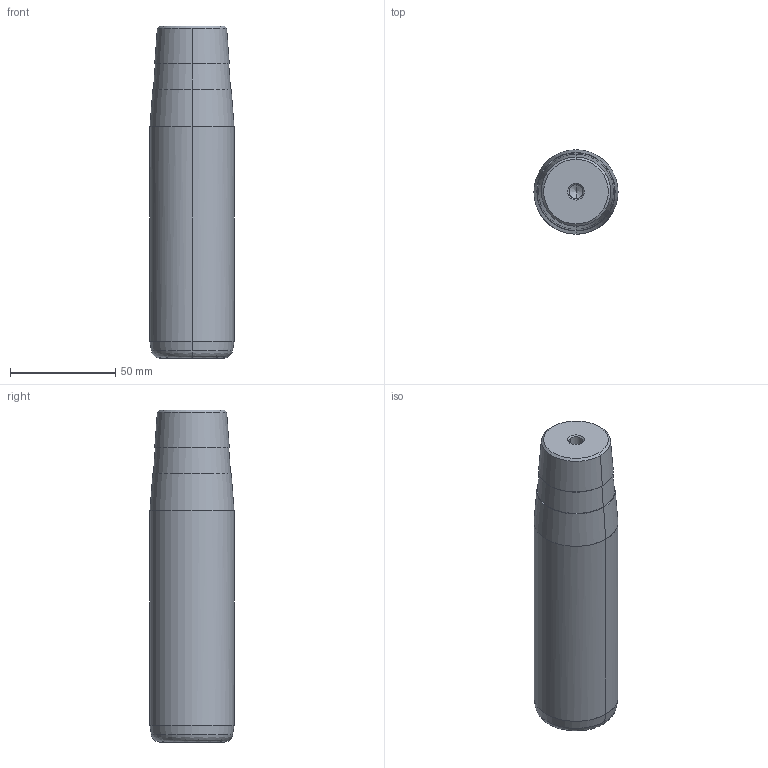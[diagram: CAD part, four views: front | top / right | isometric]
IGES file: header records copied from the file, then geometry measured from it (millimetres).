
Start section: START RECORD GO HERE.
Global section: file name: 722-40x125x158.igs; native system: DASSAULT SYSTEMES CATIA V5 R20 - www.3ds.com; preprocessor: CATIA Version 5 Release 20 ; author: Utente; organization: NB04-ASUS; date: 20210108.163831; units: millimetre
Bounding box: 40 x 40 x 158 mm (x, y, z)
Surface area: 22191.7 mm2 (no closed solid volume)
Topology: 0 solids, 0 shells, 32 faces, 192 edges, 188 vertices
Faces by surface type: revolution 30, plane 2
